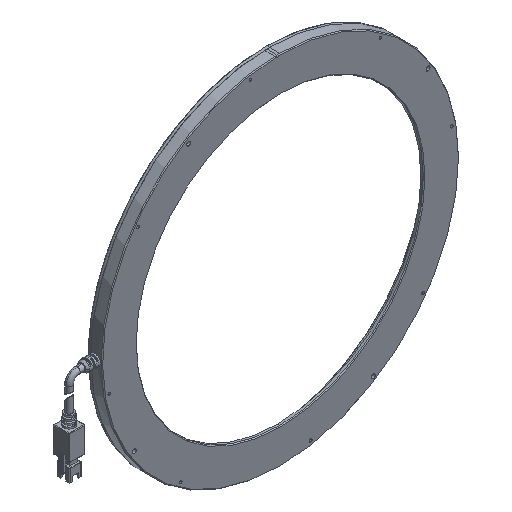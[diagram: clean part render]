
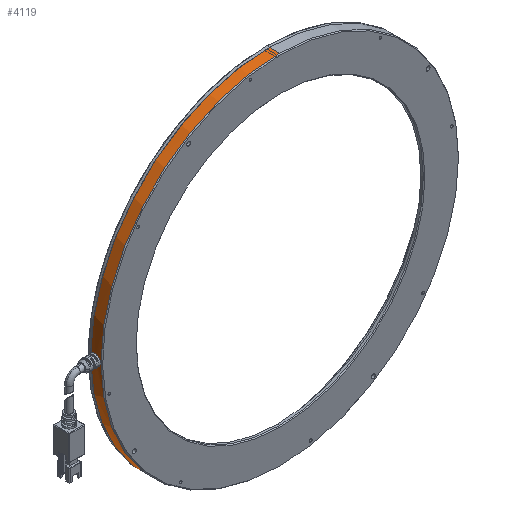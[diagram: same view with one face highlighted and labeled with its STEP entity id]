
A CAD part, isometric view. The second image highlights one B-rep face of the part: STEP entity #4119.
In plain terms, the highlighted cylindrical face has radius 112 mm (diameter 224 mm), a partial arc.
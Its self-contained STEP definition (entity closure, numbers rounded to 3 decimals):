
#115 = VERTEX_POINT ( 'NONE', #9709 ) ;
#634 = DIRECTION ( 'NONE',  ( 0., 0., -1. ) ) ;
#647 = CARTESIAN_POINT ( 'NONE',  ( -111.988, -7.106, 1.618 ) ) ;
#684 = CARTESIAN_POINT ( 'NONE',  ( -111.988, -7.108, -1.615 ) ) ;
#1420 = EDGE_CURVE ( 'NONE', #4449, #7979, #11932, .T. ) ;
#1455 = FACE_OUTER_BOUND ( 'NONE', #5201, .T. ) ;
#1588 = CARTESIAN_POINT ( 'NONE',  ( -111.969, -5., 2.65 ) ) ;
#1631 = CARTESIAN_POINT ( 'NONE',  ( -111.994, -7.382, 1.174 ) ) ;
#1677 = CARTESIAN_POINT ( 'NONE',  ( -111.982, -6.752, -1.996 ) ) ;
#1698 = DIRECTION ( 'NONE',  ( 0., -1., 0. ) ) ;
#2153 = CARTESIAN_POINT ( 'NONE',  ( -111.969, 0., -2.65 ) ) ;
#2279 = DIRECTION ( 'NONE',  ( 0., -1., 0. ) ) ;
#2648 = CARTESIAN_POINT ( 'NONE',  ( -111.998, -7.565, 0.689 ) ) ;
#2688 = CARTESIAN_POINT ( 'NONE',  ( -111.976, -6.331, -2.298 ) ) ;
#2699 = CARTESIAN_POINT ( 'NONE',  ( 0., -8.5, 0. ) ) ;
#2739 = EDGE_CURVE ( 'NONE', #115, #4449, #5081, .T. ) ;
#2894 = VERTEX_POINT ( 'NONE', #9318 ) ;
#3083 = CARTESIAN_POINT ( 'NONE',  ( 0., -2., 0. ) ) ;
#3272 = CARTESIAN_POINT ( 'NONE',  ( 0., 0., -112. ) ) ;
#3274 = CARTESIAN_POINT ( 'NONE',  ( 0., -8.5, -112. ) ) ;
#3349 = EDGE_CURVE ( 'NONE', #7979, #11126, #12789, .T. ) ;
#3594 = CARTESIAN_POINT ( 'NONE',  ( -111.971, -5.686, 2.566 ) ) ;
#3632 = CARTESIAN_POINT ( 'NONE',  ( -112., -7.65, 0.175 ) ) ;
#3634 = DIRECTION ( 'NONE',  ( 0., -1., 0. ) ) ;
#3646 = EDGE_CURVE ( 'NONE', #11126, #2894, #4116, .T. ) ;
#3683 = CARTESIAN_POINT ( 'NONE',  ( -111.972, -5.855, -2.514 ) ) ;
#3698 = DIRECTION ( 'NONE',  ( 0., 0., 1. ) ) ;
#3704 = CARTESIAN_POINT ( 'NONE',  ( -111.969, 0., 2.65 ) ) ;
#3713 = CARTESIAN_POINT ( 'NONE',  ( -111.969, -2., 2.65 ) ) ;
#4116 = CIRCLE ( 'NONE', #4380, 112. ) ;
#4119 = ADVANCED_FACE ( 'NONE', ( #1455 ), #8749, .T. ) ;
#4153 = DIRECTION ( 'NONE',  ( 0., -1., 0. ) ) ;
#4380 = AXIS2_PLACEMENT_3D ( 'NONE', #2699, #9634, #3698 ) ;
#4449 = VERTEX_POINT ( 'NONE', #12047 ) ;
#4586 = CARTESIAN_POINT ( 'NONE',  ( -111.975, -6.175, 2.382 ) ) ;
#4622 = B_SPLINE_CURVE_WITH_KNOTS ( 'NONE', 3,
 ( #1588, #7527, #9538, #3594, #10528, #4586, #11509, #5596, #12492, #6576, #647, #7572, #1631, #8569, #2648, #9588, #3632, #10579, #4630, #11549, #5633, #12536, #6617, #684, #7608, #1677, #8612, #2688, #9621, #3683, #10620, #4673, #11591, #5673 ),
 .UNSPECIFIED., .F., .F.,
 ( 4, 2, 2, 2, 2, 2, 2, 2, 2, 2, 2, 2, 2, 2, 2, 2, 4 ),
 ( 0., 0.001, 0.001, 0.002, 0.002, 0.003, 0.003, 0.004, 0.004, 0.005, 0.005, 0.006, 0.006, 0.007, 0.007, 0.008, 0.008 ),
 .UNSPECIFIED. ) ;
#4630 = CARTESIAN_POINT ( 'NONE',  ( -112., -7.633, -0.347 ) ) ;
#4673 = CARTESIAN_POINT ( 'NONE',  ( -111.969, -5.35, -2.632 ) ) ;
#4760 = VECTOR ( 'NONE', #8080, 1000. ) ;
#4828 = LINE ( 'NONE', #10218, #10126 ) ;
#5070 = DIRECTION ( 'NONE',  ( 0., 0., -1. ) ) ;
#5081 = LINE ( 'NONE', #2153, #4760 ) ;
#5201 = EDGE_LOOP ( 'NONE', ( #11913, #12649, #8620, #8028, #9272, #8903, #8984, #6852 ) ) ;
#5596 = CARTESIAN_POINT ( 'NONE',  ( -111.98, -6.615, 2.108 ) ) ;
#5633 = CARTESIAN_POINT ( 'NONE',  ( -111.997, -7.515, -0.852 ) ) ;
#5673 = CARTESIAN_POINT ( 'NONE',  ( -111.969, -5., -2.65 ) ) ;
#5697 = VERTEX_POINT ( 'NONE', #3713 ) ;
#6237 = CARTESIAN_POINT ( 'NONE',  ( 0., -2., 112. ) ) ;
#6556 = DIRECTION ( 'NONE',  ( 0., -1., 0. ) ) ;
#6576 = CARTESIAN_POINT ( 'NONE',  ( -111.986, -6.996, 1.752 ) ) ;
#6617 = CARTESIAN_POINT ( 'NONE',  ( -111.992, -7.3, -1.328 ) ) ;
#6812 = AXIS2_PLACEMENT_3D ( 'NONE', #9590, #3634, #10581 ) ;
#6852 = ORIENTED_EDGE ( 'NONE', *, *, #3646, .T. ) ;
#7022 = CARTESIAN_POINT ( 'NONE',  ( -111.969, -5., 2.65 ) ) ;
#7527 = CARTESIAN_POINT ( 'NONE',  ( -111.969, -5.175, 2.65 ) ) ;
#7554 = CARTESIAN_POINT ( 'NONE',  ( 0., 0., 0. ) ) ;
#7572 = CARTESIAN_POINT ( 'NONE',  ( -111.992, -7.3, 1.329 ) ) ;
#7607 = LINE ( 'NONE', #3704, #9962 ) ;
#7608 = CARTESIAN_POINT ( 'NONE',  ( -111.986, -6.999, -1.749 ) ) ;
#7680 = VERTEX_POINT ( 'NONE', #6237 ) ;
#7913 = EDGE_CURVE ( 'NONE', #7680, #5697, #9830, .T. ) ;
#7979 = VERTEX_POINT ( 'NONE', #8660 ) ;
#8028 = ORIENTED_EDGE ( 'NONE', *, *, #11893, .T. ) ;
#8058 = AXIS2_PLACEMENT_3D ( 'NONE', #3083, #4153, #5070 ) ;
#8080 = DIRECTION ( 'NONE',  ( 0., 1., 0. ) ) ;
#8530 = AXIS2_PLACEMENT_3D ( 'NONE', #7554, #6556, #634 ) ;
#8569 = CARTESIAN_POINT ( 'NONE',  ( -111.997, -7.514, 0.856 ) ) ;
#8612 = CARTESIAN_POINT ( 'NONE',  ( -111.98, -6.618, -2.106 ) ) ;
#8620 = ORIENTED_EDGE ( 'NONE', *, *, #10271, .T. ) ;
#8660 = CARTESIAN_POINT ( 'NONE',  ( 0., -2., -112. ) ) ;
#8749 = CYLINDRICAL_SURFACE ( 'NONE', #8530, 112. ) ;
#8903 = ORIENTED_EDGE ( 'NONE', *, *, #1420, .T. ) ;
#8984 = ORIENTED_EDGE ( 'NONE', *, *, #3349, .T. ) ;
#9214 = DIRECTION ( 'NONE',  ( 0., -1., 0. ) ) ;
#9272 = ORIENTED_EDGE ( 'NONE', *, *, #2739, .T. ) ;
#9318 = CARTESIAN_POINT ( 'NONE',  ( 0., -8.5, 112. ) ) ;
#9538 = CARTESIAN_POINT ( 'NONE',  ( -111.969, -5.347, 2.633 ) ) ;
#9588 = CARTESIAN_POINT ( 'NONE',  ( -112., -7.633, 0.347 ) ) ;
#9590 = CARTESIAN_POINT ( 'NONE',  ( 0., -2., 0. ) ) ;
#9621 = CARTESIAN_POINT ( 'NONE',  ( -111.975, -6.176, -2.381 ) ) ;
#9634 = DIRECTION ( 'NONE',  ( 0., 1., 0. ) ) ;
#9709 = CARTESIAN_POINT ( 'NONE',  ( -111.969, -5., -2.65 ) ) ;
#9830 = CIRCLE ( 'NONE', #6812, 112. ) ;
#9962 = VECTOR ( 'NONE', #1698, 1000. ) ;
#9996 = EDGE_CURVE ( 'NONE', #7680, #2894, #4828, .T. ) ;
#10126 = VECTOR ( 'NONE', #2279, 1000. ) ;
#10218 = CARTESIAN_POINT ( 'NONE',  ( 0., 0., 112. ) ) ;
#10271 = EDGE_CURVE ( 'NONE', #5697, #10468, #7607, .T. ) ;
#10468 = VERTEX_POINT ( 'NONE', #7022 ) ;
#10491 = VECTOR ( 'NONE', #9214, 1000. ) ;
#10528 = CARTESIAN_POINT ( 'NONE',  ( -111.972, -5.854, 2.515 ) ) ;
#10579 = CARTESIAN_POINT ( 'NONE',  ( -112., -7.65, -0.171 ) ) ;
#10581 = DIRECTION ( 'NONE',  ( 0., 0., -1. ) ) ;
#10620 = CARTESIAN_POINT ( 'NONE',  ( -111.971, -5.69, -2.565 ) ) ;
#11126 = VERTEX_POINT ( 'NONE', #3274 ) ;
#11509 = CARTESIAN_POINT ( 'NONE',  ( -111.976, -6.327, 2.3 ) ) ;
#11549 = CARTESIAN_POINT ( 'NONE',  ( -111.998, -7.565, -0.686 ) ) ;
#11591 = CARTESIAN_POINT ( 'NONE',  ( -111.969, -5.175, -2.65 ) ) ;
#11893 = EDGE_CURVE ( 'NONE', #10468, #115, #4622, .T. ) ;
#11913 = ORIENTED_EDGE ( 'NONE', *, *, #9996, .F. ) ;
#11932 = CIRCLE ( 'NONE', #8058, 112. ) ;
#12047 = CARTESIAN_POINT ( 'NONE',  ( -111.969, -2., -2.65 ) ) ;
#12492 = CARTESIAN_POINT ( 'NONE',  ( -111.982, -6.752, 1.996 ) ) ;
#12536 = CARTESIAN_POINT ( 'NONE',  ( -111.994, -7.383, -1.172 ) ) ;
#12649 = ORIENTED_EDGE ( 'NONE', *, *, #7913, .T. ) ;
#12789 = LINE ( 'NONE', #3272, #10491 ) ;
